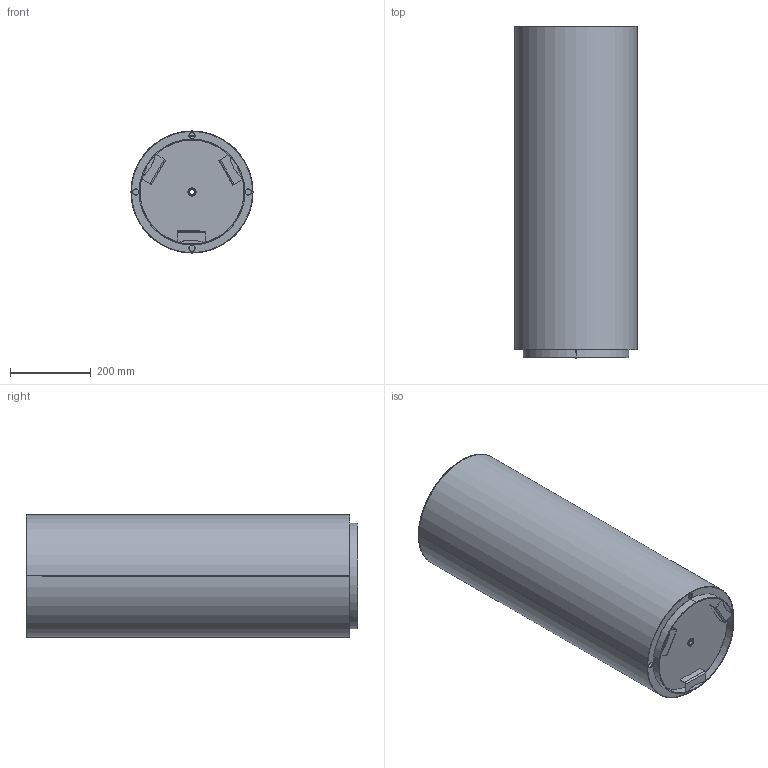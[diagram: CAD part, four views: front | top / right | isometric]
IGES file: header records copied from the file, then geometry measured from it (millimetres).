
Start section: SolidWorks IGES file using analytic representation for surfaces
Global section: file name: C:\VaultDeCastelli\Progetti\DC\PESO LEGGERO PRODOTTI\Ale\DeCastelli-3D-Cohiba slim 82.igs; native system: SolidWorks 2022; preprocessor: SolidWorks 2022; author: AlessandroP; date: 240802.102653; units: millimetre
Bounding box: 301.7 x 820 x 301.7 mm (x, y, z)
Surface area: 1776808.9 mm2 (no closed solid volume)
Topology: 0 solids, 0 shells, 94 faces, 1869 edges, 1869 vertices
Faces by surface type: bspline 56, revolution 38
